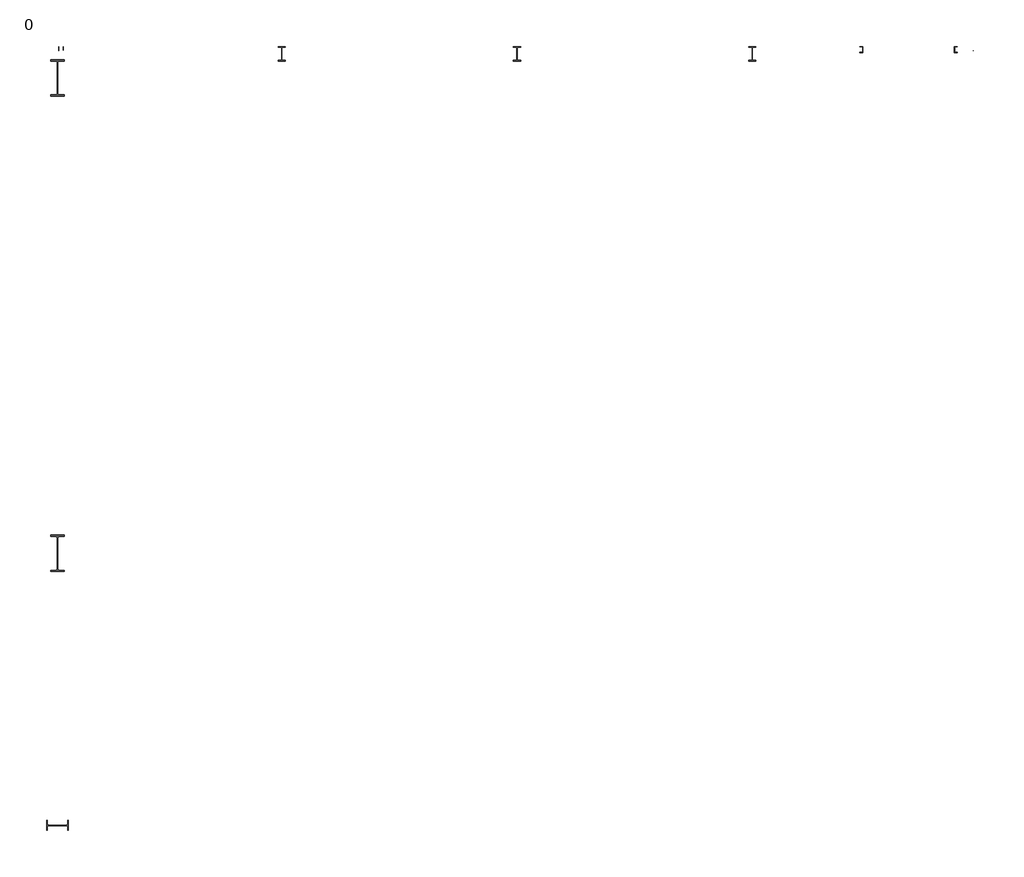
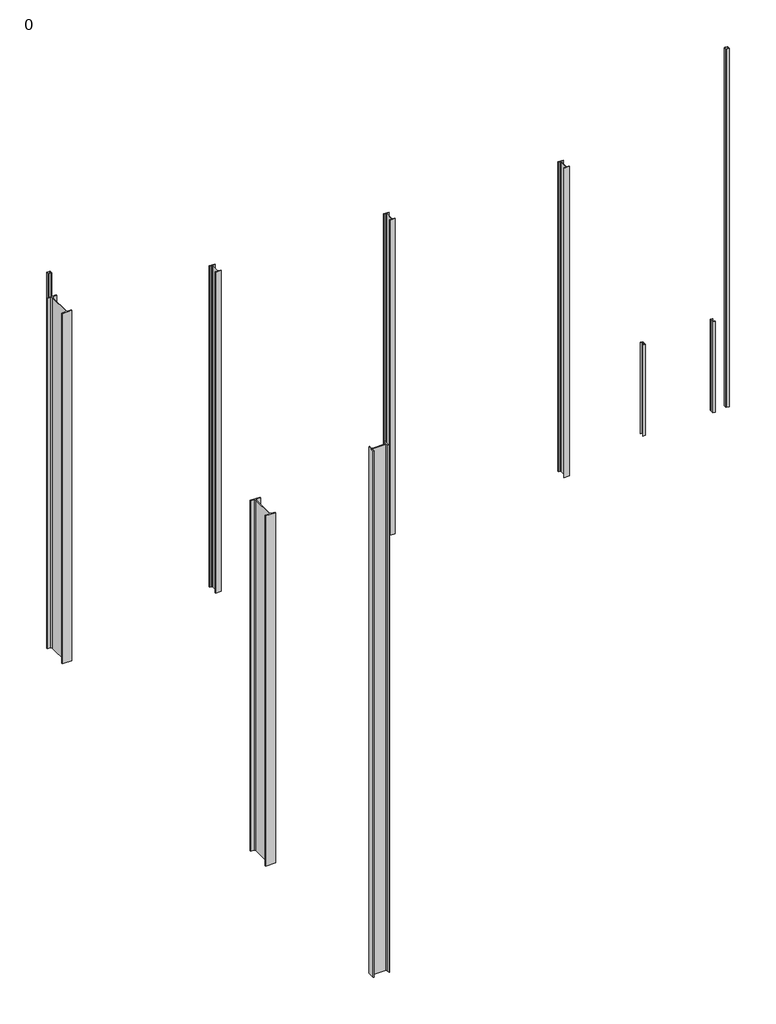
# One storey: 10 beams.
"""IFC4 building model written with IfcOpenShell, lengths in millimetres."""

from ifc_helpers import new_model, si_unit, origin, place, context, project, spatial, transform, mapped, element, save
from components import beam_40357484, beam_2ee75d21, lisse_142338_lisse_142338_47c7ff91, lisse_143786_lisse_143786_fd7d0ed2, poteau_11903_poteau_11903_66130c2d, poteau_12940_poteau_12940_f40dcef4, poteau_26966_poteau_26966_e5a824e5, poteau_59386_poteau_59386_185ae075, poteau_61120_poteau_61120_606a1435, poteau_poteau_bcdf2e3d

model = new_model("IFC4")

# Units and contexts
model_context = context("Model", 3, world=origin())
ifc_project = project(units=[si_unit("LENGTHUNIT", "METRE", prefix="MILLI")], contexts=[model_context])

# Site, building, storey
site = spatial("IfcSite", under=ifc_project)
building = spatial("IfcBuilding", under=site)
storey = spatial("IfcBuildingStorey", under=building, Name="0", Elevation=0.0)

# Beams
placement = place(None, origin())
beam_shape = beam_40357484(model_context)
element("IfcBeam", 1, ObjectType=" 144676 :  144676", at=placement, inside=storey, context=model_context, shape_type="MappedRepresentation", body=[
    mapped(beam_shape, transform((0.0, 0.0, 0.0), x_axis=(1.0, 0.0, 0.0), y_axis=(0.0, 1.0, 0.0), z_axis=(0.0, 0.0, 1.0))),
])
beam_2_shape = beam_2ee75d21(model_context)
element("IfcBeam", 2, ObjectType=" 163445 :  163445", at=placement, inside=storey, context=model_context, shape_type="MappedRepresentation", body=[
    mapped(beam_2_shape, transform((0.0, 0.0, 0.0), x_axis=(1.0, 0.0, 0.0), y_axis=(0.0, 1.0, 0.0), z_axis=(0.0, 0.0, 1.0))),
])
lisse_142338_lisse_142338_shape = lisse_142338_lisse_142338_47c7ff91(model_context)
element("IfcBeam", 3, ObjectType="Lisse 142338 : Lisse 142338", at=placement, inside=storey, context=model_context, shape_type="MappedRepresentation", body=[
    mapped(lisse_142338_lisse_142338_shape, transform((0.0, 0.0, 0.0), x_axis=(1.0, 0.0, 0.0), y_axis=(0.0, 1.0, 0.0), z_axis=(0.0, 0.0, 1.0))),
])
lisse_143786_lisse_143786_shape = lisse_143786_lisse_143786_fd7d0ed2(model_context)
element("IfcBeam", 4, ObjectType="Lisse 143786 : Lisse 143786", at=placement, inside=storey, context=model_context, shape_type="MappedRepresentation", body=[
    mapped(lisse_143786_lisse_143786_shape, transform((0.0, 0.0, 0.0), x_axis=(1.0, 0.0, 0.0), y_axis=(0.0, 1.0, 0.0), z_axis=(0.0, 0.0, 1.0))),
])
poteau_11903_poteau_11903_shape = poteau_11903_poteau_11903_66130c2d(model_context)
element("IfcBeam", 5, ObjectType="Poteau 11903 : Poteau 11903", at=placement, inside=storey, context=model_context, shape_type="MappedRepresentation", body=[
    mapped(poteau_11903_poteau_11903_shape, transform((0.0, 0.0, 0.0), x_axis=(1.0, 0.0, 0.0), y_axis=(0.0, 1.0, 0.0), z_axis=(0.0, 0.0, 1.0))),
])
poteau_12940_poteau_12940_shape = poteau_12940_poteau_12940_f40dcef4(model_context)
element("IfcBeam", 6, ObjectType="Poteau 12940 : Poteau 12940", at=placement, inside=storey, context=model_context, shape_type="MappedRepresentation", body=[
    mapped(poteau_12940_poteau_12940_shape, transform((0.0, 0.0, 0.0), x_axis=(1.0, 0.0, 0.0), y_axis=(0.0, 1.0, 0.0), z_axis=(0.0, 0.0, 1.0))),
])
poteau_26966_poteau_26966_shape = poteau_26966_poteau_26966_e5a824e5(model_context)
element("IfcBeam", 7, ObjectType="Poteau 26966 : Poteau 26966", at=placement, inside=storey, context=model_context, shape_type="MappedRepresentation", body=[
    mapped(poteau_26966_poteau_26966_shape, transform((0.0, 0.0, 0.0), x_axis=(1.0, 0.0, 0.0), y_axis=(0.0, 1.0, 0.0), z_axis=(0.0, 0.0, 1.0))),
])
poteau_59386_poteau_59386_shape = poteau_59386_poteau_59386_185ae075(model_context)
element("IfcBeam", 8, ObjectType="Poteau 59386 : Poteau 59386", at=placement, inside=storey, context=model_context, shape_type="MappedRepresentation", body=[
    mapped(poteau_59386_poteau_59386_shape, transform((0.0, 0.0, 0.0), x_axis=(1.0, 0.0, 0.0), y_axis=(0.0, 1.0, 0.0), z_axis=(0.0, 0.0, 1.0))),
])
poteau_61120_poteau_61120_shape = poteau_61120_poteau_61120_606a1435(model_context)
element("IfcBeam", 9, ObjectType="Poteau 61120 : Poteau 61120", at=placement, inside=storey, context=model_context, shape_type="MappedRepresentation", body=[
    mapped(poteau_61120_poteau_61120_shape, transform((0.0, 0.0, 0.0), x_axis=(1.0, 0.0, 0.0), y_axis=(0.0, 1.0, 0.0), z_axis=(0.0, 0.0, 1.0))),
])
poteau_poteau_shape = poteau_poteau_bcdf2e3d(model_context)
element("IfcBeam", 10, ObjectType="Poteau : Poteau", at=placement, inside=storey, context=model_context, shape_type="MappedRepresentation", body=[
    mapped(poteau_poteau_shape, transform((0.0, 0.0, 0.0), x_axis=(1.0, 0.0, 0.0), y_axis=(0.0, 1.0, 0.0), z_axis=(0.0, 0.0, 1.0))),
])

save(model, "model.ifc")
